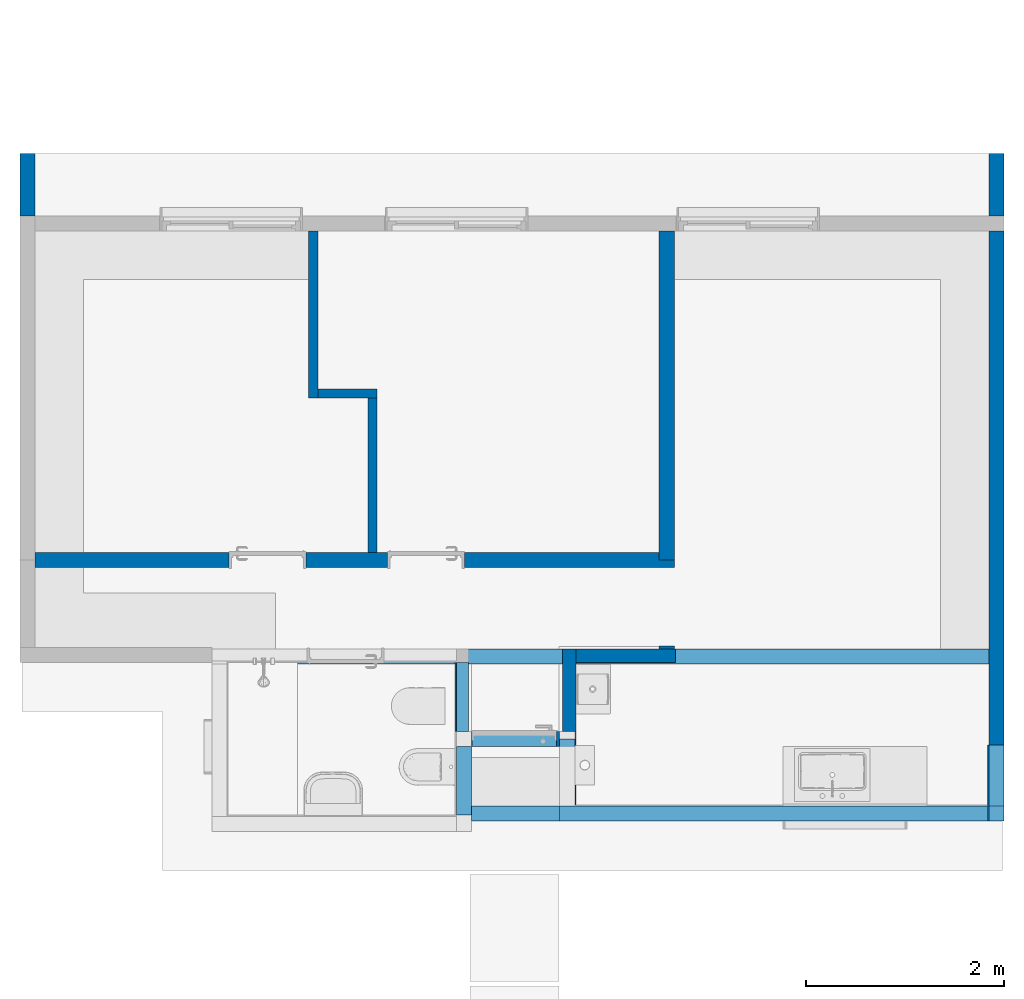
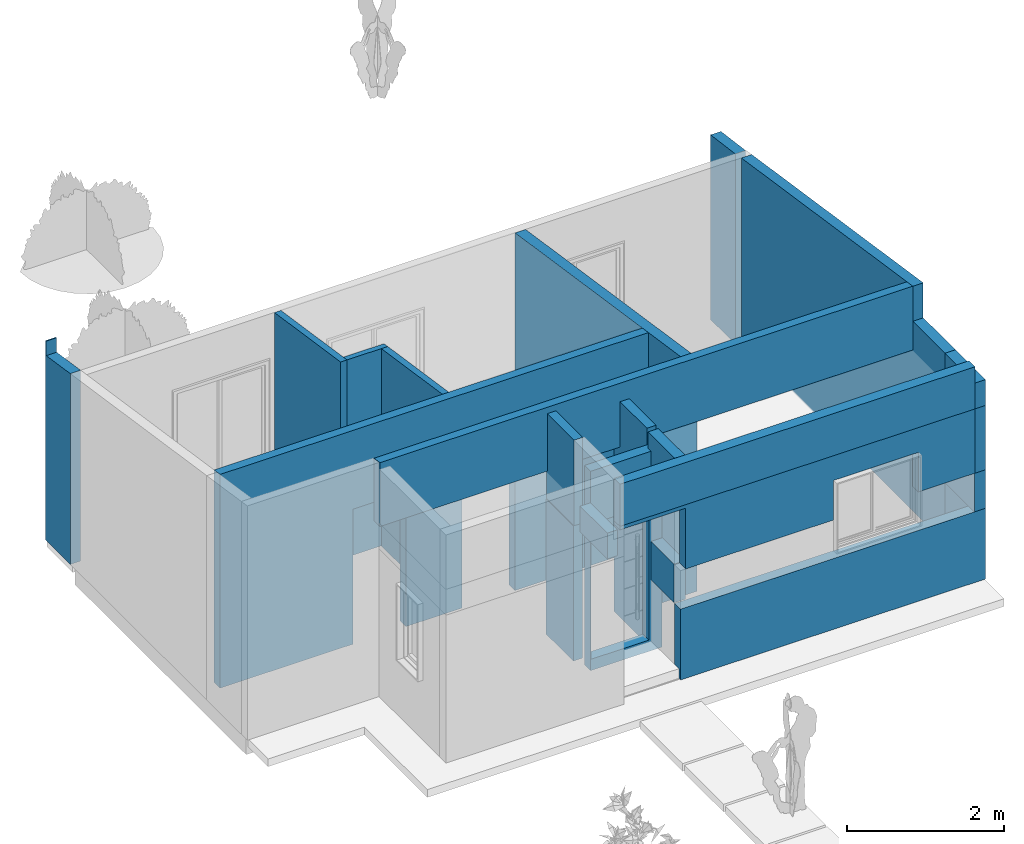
# One storey, part 2 of 8: 24 walls, 7 openings.
"""IFC2X3 building model written with IfcOpenShell, lengths in metres."""

from ifc_helpers import new_model, entity, si_unit, converted_unit, derived_unit, direction, frame, frame_2d, origin, place, context, subcontext, project, spatial, polyline, rectangle, extrude, clip, halfspace, bounded_halfspace, faceted_brep, material, layer, layer_set, layer_usage, type_object, element, save


model = new_model("IFC2X3")

# Units and contexts
model_context = context("Model", 3, precision=1e-05, world=origin(), true_north=direction((6.12303176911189e-17, 1.0)))
body_context = subcontext(model_context, "Body", "Model", "MODEL_VIEW")
ifc_project = project(units=[si_unit("LENGTHUNIT", "METRE"), si_unit("AREAUNIT", "SQUARE_METRE"), si_unit("VOLUMEUNIT", "CUBIC_METRE"), converted_unit("PLANEANGLEUNIT", "DEGREE", entity("IfcRatioMeasure", 0.0174532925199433), si_unit("PLANEANGLEUNIT", "RADIAN"), dimensions=[0, 0, 0, 0, 0, 0, 0]), si_unit("MASSUNIT", "GRAM", prefix="KILO"), derived_unit("MASSDENSITYUNIT", [(si_unit("MASSUNIT", "GRAM", prefix="KILO"), 1), (si_unit("LENGTHUNIT", "METRE"), -3)]), si_unit("TIMEUNIT", "SECOND"), si_unit("FREQUENCYUNIT", "HERTZ"), si_unit("THERMODYNAMICTEMPERATUREUNIT", "DEGREE_CELSIUS"), derived_unit("THERMALTRANSMITTANCEUNIT", [(si_unit("MASSUNIT", "GRAM", prefix="KILO"), 1), (si_unit("THERMODYNAMICTEMPERATUREUNIT", "KELVIN"), -1), (si_unit("TIMEUNIT", "SECOND"), -3)]), derived_unit("VOLUMETRICFLOWRATEUNIT", [(si_unit("LENGTHUNIT", "METRE"), 3), (si_unit("TIMEUNIT", "SECOND"), -1)]), si_unit("ELECTRICCURRENTUNIT", "AMPERE"), si_unit("ELECTRICVOLTAGEUNIT", "VOLT"), si_unit("POWERUNIT", "WATT"), si_unit("FORCEUNIT", "NEWTON", prefix="KILO"), si_unit("ILLUMINANCEUNIT", "LUX"), si_unit("LUMINOUSFLUXUNIT", "LUMEN"), si_unit("LUMINOUSINTENSITYUNIT", "CANDELA"), derived_unit("USERDEFINED", [(si_unit("MASSUNIT", "GRAM", prefix="KILO"), -1), (si_unit("LENGTHUNIT", "METRE"), -2), (si_unit("TIMEUNIT", "SECOND"), 3), (si_unit("LUMINOUSFLUXUNIT", "LUMEN"), 1)]), derived_unit("LINEARVELOCITYUNIT", [(si_unit("LENGTHUNIT", "METRE"), 1), (si_unit("TIMEUNIT", "SECOND"), -1)]), si_unit("PRESSUREUNIT", "PASCAL"), derived_unit("USERDEFINED", [(si_unit("LENGTHUNIT", "METRE"), -2), (si_unit("MASSUNIT", "GRAM", prefix="KILO"), 1), (si_unit("TIMEUNIT", "SECOND"), -2)])], contexts=[model_context])

# Site, building, storey
site_placement = place(None, origin())
site = spatial("IfcSite", under=ifc_project, at=site_placement, Name="Surface", CompositionType="ELEMENT")
building_placement = place(site_placement, origin())
building = spatial("IfcBuilding", under=site, at=building_placement, CompositionType="ELEMENT")
storey_placement = place(building_placement, origin())
storey = spatial("IfcBuildingStorey", under=building, at=storey_placement, Name="Nivel 0.0", CompositionType="ELEMENT", Elevation=0.0)

# Walls
ifc_material_1 = material(Name="Placa cementicia")
ifc_layer_1 = layer(ifc_material_1, 0.0125)
ifc_material_2 = material(Name="Bastidor metálico")
ifc_layer_2 = layer(ifc_material_2, 0.03)
ifc_material_3 = material(Name="OSB")
ifc_layer_3 = layer(ifc_material_3, 0.011)
ifc_material_4 = material(Name="Poliestireno expandido")
ifc_layer_4 = layer(ifc_material_4, 0.046)
ifc_layer_5 = layer(ifc_material_3, 0.011)
ifc_layer_6 = layer(ifc_material_2, 0.03)
ifc_layer_7 = layer(ifc_material_1, 0.012)
ifc_layer_set_1 = layer_set([ifc_layer_1, ifc_layer_2, ifc_layer_3, ifc_layer_4, ifc_layer_5, ifc_layer_6, ifc_layer_7], Name="Basic Wall:Pe-NW-001")
ifc_layer_usage_1 = layer_usage(ifc_layer_set_1, "AXIS2", "POSITIVE", -0.07625)
wall_type_1 = type_object("IfcWallType", Name="Basic Wall:Pe-NW-001", PredefinedType="STANDARD", material=ifc_layer_set_1)
wall_1_placement = place(storey_placement, frame((-8.91933547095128, 3.3208520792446, -0.175816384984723), z_axis=(0.0, 0.0, 1.0), x_axis=(0.0, -1.0, 0.0)))
element("IfcWallStandardCase", 1, at=wall_1_placement, inside=storey, type_object=wall_type_1, material=ifc_layer_usage_1, Name="Basic Wall:Pe-NW-001", ObjectType="Basic Wall:Pe-NW-001", context=body_context, shape_type="Clipping", body=[
    clip(extrude(rectangle(XDim=0.629137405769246, YDim=0.1525, at=frame_2d((0.314568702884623, 0.0), x_axis=(-1.0, 0.0))), origin(), (0.0, 0.0, 1.0), 3.1), bounded_halfspace(frame((0.0167500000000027, -0.0762500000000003, 2.87499999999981), z_axis=(-0.148340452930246, 0.0, 0.988936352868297), x_axis=(0.0, -1.0, 0.0)), False, frame((0.0167500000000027, -0.0762500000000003, 2.87499999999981)), polyline([(0.0, 0.0), (0.612387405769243, 0.0), (0.612387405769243, 0.1525), (0.0, 0.1525), (0.0, 0.0)]))),
])
ifc_layer_usage_2 = layer_usage(ifc_layer_set_1, "AXIS2", "POSITIVE", -0.07625)
wall_2_placement = place(storey_placement, frame((-7.05351368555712, -1.75579870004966, 2.47711071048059)))
element("IfcWallStandardCase", 2, at=wall_2_placement, inside=storey, type_object=wall_type_1, material=ifc_layer_usage_2, Name="Basic Wall:Pe-NW-001", ObjectType="Basic Wall:Pe-NW-001", context=body_context, shape_type="Clipping", body=[
    clip(extrude(rectangle(XDim=7.83792821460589, YDim=0.1525, at=frame_2d((3.91896410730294, -1.38777878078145e-17), x_axis=(-1.0, 0.0))), origin(), (0.0, 0.0, 1.0), 0.992495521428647), bounded_halfspace(frame((0.0, -0.07625, 0.992495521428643), z_axis=(0.0, 0.148340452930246, 0.988936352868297), x_axis=(-1.0, 0.0, 0.0)), False, frame((0.0, -0.07625, 0.992495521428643), z_axis=(0.0, 0.148340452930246, 0.988936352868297), x_axis=(-1.0, 0.0, 0.0)), polyline([(0.0, 0.0), (-7.83792821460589, 0.0), (-7.83792821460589, -0.15420608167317), (-4.66479519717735, -0.15420608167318), (-4.51029519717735, -0.15420608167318), (0.0, -0.154206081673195), (0.0, 0.0)]))),
])
ifc_layer_usage_3 = layer_usage(ifc_layer_set_1, "AXIS2", "POSITIVE", -0.07625)
wall_3_placement = place(storey_placement, frame((-4.43901368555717, -3.34203532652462, 2.525)))
element("IfcWallStandardCase", 3, at=wall_3_placement, inside=storey, type_object=wall_type_1, material=ifc_layer_usage_3, Name="Basic Wall:Pe-NW-001", ObjectType="Basic Wall:Pe-NW-001", context=body_context, shape_type="SweptSolid", body=[
    extrude(rectangle(XDim=5.22392821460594, YDim=0.1525, at=frame_2d((2.61196410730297, 1.2490009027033e-16), x_axis=(-1.0, 0.0))), origin(), (0.0, 0.0, 1.0), 0.655000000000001),
])
ifc_layer_usage_4 = layer_usage(ifc_layer_set_1, "AXIS2", "POSITIVE", -0.07625)
wall_4_placement = place(storey_placement, frame((0.861164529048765, -3.41828532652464, 2.525), z_axis=(0.0, 0.0, 1.0), x_axis=(0.0, 1.0, 0.0)))
element("IfcWallStandardCase", 4, at=wall_4_placement, inside=storey, type_object=wall_type_1, material=ifc_layer_usage_4, Name="Basic Wall:Pe-NW-001", ObjectType="Basic Wall:Pe-NW-001", context=body_context, shape_type="SweptSolid", body=[
    extrude(rectangle(XDim=0.766500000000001, YDim=0.1525, at=frame_2d((0.38325, 6.93889390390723e-18), x_axis=(-1.0, 0.0))), origin(), (0.0, 0.0, 1.0), 0.4),
])
ifc_layer_usage_5 = layer_usage(ifc_layer_set_1, "AXIS2", "POSITIVE", -0.07625)
wall_5_placement = place(storey_placement, frame((0.861164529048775, 2.69171467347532, -0.175000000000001), z_axis=(0.0, 0.0, 1.0), x_axis=(0.0, 1.0, 0.0)))
element("IfcWallStandardCase", 5, at=wall_5_placement, inside=storey, type_object=wall_type_1, material=ifc_layer_usage_5, Name="Basic Wall:Pe-NW-001", ObjectType="Basic Wall:Pe-NW-001", context=body_context, shape_type="Clipping", body=[
    clip(extrude(rectangle(XDim=0.629137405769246, YDim=0.1525, at=frame_2d((0.314568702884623, 2.77555756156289e-17), x_axis=(-1.0, 0.0))), origin(), (0.0, 0.0, 1.0), 2.9571012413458), halfspace(frame((0.0, -0.0762499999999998, 2.9571012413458), z_axis=(0.130665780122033, 0.0, 0.991426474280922), x_axis=(0.0, 1.0, 0.0)), False)),
])
ifc_layer_usage_6 = layer_usage(ifc_layer_set_1, "AXIS2", "POSITIVE", -0.07625)
wall_6_placement = place(storey_placement, frame((-3.47176368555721, -2.58940252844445, 2.65899999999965), z_axis=(0.0, 0.0, 1.0), x_axis=(0.0, -1.0, 0.0)))
element("IfcWallStandardCase", 6, at=wall_6_placement, inside=storey, type_object=wall_type_1, material=ifc_layer_usage_6, Name="Basic Wall:Pe-NW-001", ObjectType="Basic Wall:Pe-NW-001", context=body_context, shape_type="Clipping", body=[
    clip(extrude(rectangle(XDim=0.676382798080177, YDim=0.1525, at=frame_2d((0.338191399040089, -6.24500451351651e-17), x_axis=(1.0, 0.0))), origin(), (0.0, 0.0, 1.0), 0.521000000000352), bounded_halfspace(frame((0.676382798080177, -0.0762500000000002, 0.0), z_axis=(0.0, 0.0, 1.0), x_axis=(0.0, 1.0, 0.0)), True, frame((0.676382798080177, -0.0762500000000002, 0.0), z_axis=(0.0, 0.0, 1.0), x_axis=(0.0, 1.0, 0.0)), polyline([(0.0, 0.0), (0.1525, 0.0), (0.152500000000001, 0.599882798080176), (0.0, 0.599882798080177), (0.0, 0.0)]))),
])
ifc_layer_8 = layer(ifc_material_1, 0.0125)
ifc_layer_9 = layer(ifc_material_2, 0.03)
ifc_layer_10 = layer(ifc_material_3, 0.011)
ifc_layer_11 = layer(ifc_material_4, 0.046)
ifc_layer_12 = layer(ifc_material_3, 0.011)
ifc_layer_13 = layer(ifc_material_2, 0.03)
ifc_material_5 = material(Name="Placa roca de Yeso 12,5mm")
ifc_layer_14 = layer(ifc_material_5, 0.0125)
ifc_layer_set_2 = layer_set([ifc_layer_8, ifc_layer_9, ifc_layer_10, ifc_layer_11, ifc_layer_12, ifc_layer_13, ifc_layer_14], Name="Basic Wall:Pe-NW-002")
ifc_layer_usage_7 = layer_usage(ifc_layer_set_2, "AXIS2", "POSITIVE", -0.0765)
wall_type_2 = type_object("IfcWallType", Name="Basic Wall:Pe-NW-002", PredefinedType="STANDARD", material=ifc_layer_set_2)
wall_7_placement = place(storey_placement, frame((0.860914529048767, -2.65178532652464, -0.175), z_axis=(0.0, 0.0, 1.0), x_axis=(0.0, 1.0, 0.0)))
element("IfcWallStandardCase", 7, at=wall_7_placement, inside=storey, type_object=wall_type_2, material=ifc_layer_usage_7, Name="Basic Wall:Pe-NW-002", ObjectType="Basic Wall:Pe-NW-002", context=body_context, shape_type="Clipping", body=[
    clip(clip(clip(clip(extrude(rectangle(XDim=5.19049999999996, YDim=0.153, at=frame_2d((2.59524999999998, 0.0), x_axis=(-1.0, 0.0))), origin(), (0.0, 0.0, 1.0), 3.64460623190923), bounded_halfspace(frame((0.819736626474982, -0.0764999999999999, 3.64460623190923), z_axis=(0.148340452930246, 0.0, 0.988936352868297), x_axis=(0.0, 1.0, 0.0)), False, frame((0.819736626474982, -0.0764999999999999, 3.64460623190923)), polyline([(0.0, 0.0), (4.37076337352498, 0.0), (4.37076337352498, 0.153), (0.15249999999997, 0.153), (0.0, 0.153), (0.0, 0.0)]))), bounded_halfspace(frame((5.19049999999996, -0.0339999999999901, 0.15), z_axis=(0.0, 0.0, 1.0), x_axis=(-1.0, 0.0, 0.0)), True, frame((5.19049999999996, -0.0339999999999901, 0.15), z_axis=(0.0, 0.0, 1.0), x_axis=(-1.0, 0.0, 0.0)), polyline([(0.0, 0.0), (0.0, -0.11049999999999), (5.19049999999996, -0.110499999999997), (5.19049999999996, 0.0), (0.0, 0.0)]))), bounded_halfspace(frame((0.0, -0.0339999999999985, 0.15), z_axis=(0.0, -1.0, 0.0), x_axis=(0.0, 0.0, 1.0)), True, frame((0.0, -0.0339999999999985, 0.15), z_axis=(0.0, -1.0, 0.0), x_axis=(0.0, 0.0, 1.0)), polyline([(0.0, 0.0), (-0.15, 0.0), (-0.15, -5.19049999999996), (0.0, -5.19049999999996), (0.0, 0.0)]))), bounded_halfspace(frame((0.0, 0.0765000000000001, 3.1), z_axis=(0.0, 0.0, 1.0), x_axis=(0.0, 1.0, 0.0)), False, frame((0.0, 0.0765000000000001, 3.1)), polyline([(0.0, 0.0), (0.0, -0.000500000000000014), (0.0, -0.153), (0.819736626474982, -0.153), (0.819736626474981, 0.0), (0.0, 0.0)]))),
])

# Wall, openings
ifc_layer_usage_8 = layer_usage(ifc_layer_set_2, "AXIS2", "POSITIVE", -0.0765)
wall_8_placement = place(storey_placement, frame((-4.43901368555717, -3.34178532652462, 1.525)))
wall_8 = element("IfcWallStandardCase", 8, at=wall_8_placement, inside=storey, type_object=wall_type_2, material=ifc_layer_usage_8, Name="Basic Wall:Pe-NW-002", ObjectType="Basic Wall:Pe-NW-002", context=body_context, shape_type="SweptSolid", body=[
    extrude(rectangle(XDim=5.22342821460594, YDim=0.153, at=frame_2d((2.61171410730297, 1.31838984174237e-16), x_axis=(-1.0, 0.0))), origin(), (0.0, 0.0, 1.0), 1.0),
])
opening_1_placement = place(wall_8_placement, origin())
element("IfcOpeningElement", 9, at=opening_1_placement, cuts=wall_8, Name="Basic Wall:Pe-NW-002", ObjectType="Opening", context=body_context, shape_type="SweptSolid", body=[
    extrude(rectangle(XDim=1.1, YDim=1.25, at=frame_2d((5.55111512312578e-17, -5.55111512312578e-17), x_axis=(0.0, 1.0))), frame((3.76345223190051, -1.436, 0.0650000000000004), z_axis=(0.0, 1.0, 0.0), x_axis=(-1.0, 0.0, 0.0)), (0.0, 0.0, 1.0), 3.048),
])
opening_2_placement = place(wall_8_placement, frame((3.16503539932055, -0.0815000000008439, -0.475)))
element("IfcOpeningElement", 10, at=opening_2_placement, cuts=wall_8, Name="Basic Wall:Pe-NW-002", ObjectType="Opening", context=body_context, shape_type="Brep", body=[
    faceted_brep([(1.2, 0.0, 1.04999999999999), (0.0, 0.0, 1.04999999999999), (0.0, 0.0, 0.0), (1.2, 0.0, 0.0), (1.2, 0.135000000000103, 1.05), (0.0, 0.135000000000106, 1.05), (0.0, 0.135000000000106, 0.0), (0.0124999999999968, 0.135000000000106, 0.0), (0.0124999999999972, 0.174500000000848, 0.0), (1.1875, 0.174500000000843, 0.0), (1.1875, 0.135000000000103, 0.0), (1.2, 0.135000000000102, 0.0), (0.0124999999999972, 0.174500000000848, 1.03749999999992), (1.1875, 0.174500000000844, 1.03749999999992), (0.0124999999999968, 0.135000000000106, 1.03749999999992), (1.1875, 0.135000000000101, 1.03749999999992)], [[[0, 1, 2, 3]], [[0, 4, 5, 1]], [[5, 6, 2, 1]], [[6, 7, 8, 9, 10, 11, 3, 2]], [[11, 4, 0, 3]], [[12, 13, 9, 8]], [[8, 7, 14, 12]], [[13, 15, 10, 9]], [[12, 14, 15, 13]], [[4, 11, 10, 15, 14, 7, 6, 5]]]),
])
opening_3_placement = place(wall_8_placement, origin())
element("IfcOpeningElement", 11, at=opening_3_placement, cuts=wall_8, Name="Basic Wall:Pe-NW-002", ObjectType="Opening", context=body_context, shape_type="SweptSolid", body=[
    extrude(rectangle(XDim=0.944999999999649, YDim=1.04349999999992, at=frame_2d((-1.38777878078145e-16, 0.0), x_axis=(1.0, 0.0))), frame((0.445749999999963, 0.0764999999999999, 0.472499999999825), z_axis=(0.0, -1.0, 0.0), x_axis=(0.0, 0.0, -1.0)), (0.0, 0.0, 1.0), 0.153),
])

# Wall
ifc_layer_usage_9 = layer_usage(ifc_layer_set_2, "AXIS2", "POSITIVE", -0.0765)
wall_9_placement = place(storey_placement, frame((0.860914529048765, -3.41828532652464, 1.525), z_axis=(0.0, 0.0, 1.0), x_axis=(0.0, 1.0, 0.0)))
element("IfcWallStandardCase", 12, at=wall_9_placement, inside=storey, type_object=wall_type_2, material=ifc_layer_usage_9, Name="Basic Wall:Pe-NW-002", ObjectType="Basic Wall:Pe-NW-002", context=body_context, shape_type="SweptSolid", body=[
    extrude(rectangle(XDim=0.766500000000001, YDim=0.153, at=frame_2d((0.38325, 6.93889390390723e-18), x_axis=(-1.0, 0.0))), origin(), (0.0, 0.0, 1.0), 1.0),
])

# Wall, opening
ifc_layer_usage_10 = layer_usage(ifc_layer_set_2, "AXIS2", "NEGATIVE", 0.0765)
wall_10_placement = place(storey_placement, frame((-4.60301368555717, -2.58940252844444, -0.175)))
wall_10 = element("IfcWallStandardCase", 13, at=wall_10_placement, inside=storey, type_object=wall_type_2, material=ifc_layer_usage_10, Name="Basic Wall:Pe-NW-002", ObjectType="Basic Wall:Pe-NW-002", context=body_context, shape_type="SweptSolid", body=[
    extrude(rectangle(XDim=1.05549999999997, YDim=0.153, at=frame_2d((0.691749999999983, 0.0), x_axis=(-1.0, 0.0))), origin(), (0.0, 0.0, 1.0), 3.1),
])
opening_4_placement = place(wall_10_placement, frame((0.171879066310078, -0.0764999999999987, 0.175)))
element("IfcOpeningElement", 14, at=opening_4_placement, cuts=wall_10, Name="Puerta acceso:P1:1", ObjectType="Opening", context=body_context, shape_type="SweptSolid", body=[
    extrude(rectangle(XDim=2.09999999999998, YDim=0.85, at=frame_2d((1.04999999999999, 0.425), x_axis=(1.0, 0.0))), frame((0.0, 0.0, 0.0), z_axis=(0.0, 1.0, 0.0), x_axis=(0.0, 0.0, 1.0)), (0.0, 0.0, 1.0), 0.153),
])

# Walls
wall_11_placement = place(storey_placement, frame((-3.54801368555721, -3.34178532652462, -0.175)))
element("IfcWall", 15, at=wall_11_placement, inside=storey, type_object=wall_type_2, Name="Basic Wall:Pe-NW-002", ObjectType="Basic Wall:Pe-NW-002", context=body_context, shape_type="Brep", body=[
    faceted_brep([(4.48542821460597, -0.0764999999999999, 1.1), (4.32092821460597, -0.0764999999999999, 1.1), (0.0, -0.0764999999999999, 1.1), (0.0, -0.0764999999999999, 0.0), (4.48542821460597, -0.0764999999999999, 0.0), (0.0, 0.0764999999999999, 1.1), (0.153000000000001, 0.0764999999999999, 1.1), (4.33242821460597, 0.0764999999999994, 1.1), (4.48542821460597, 0.0764999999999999, 1.1), (4.48542821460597, 0.0764999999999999, 0.0), (4.44292821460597, 0.0764999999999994, 0.0), (4.44292821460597, 0.0764999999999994, 0.15), (4.33242821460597, 0.0764999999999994, 0.15), (0.0, 0.0764999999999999, 0.15), (0.0, -0.0339999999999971, 0.0), (4.44292821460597, -0.0339999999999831, 0.0), (4.44292821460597, -0.0339999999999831, 0.15), (0.0, -0.0339999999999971, 0.15)], [[[0, 1, 2, 3, 4]], [[5, 6, 7, 8, 9, 10, 11, 12, 13]], [[2, 1, 0, 8, 7, 6, 5]], [[4, 3, 14, 15, 10, 9]], [[0, 4, 9, 8]], [[11, 16, 17, 13, 12]], [[15, 16, 11, 10]], [[16, 15, 14, 17]], [[3, 2, 5, 13, 17, 14]]]),
])
ifc_layer_usage_11 = layer_usage(ifc_layer_set_2, "AXIS2", "POSITIVE", -0.0765)
wall_12_placement = place(storey_placement, frame((0.860914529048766, -3.26528532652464, -0.175), z_axis=(0.0, 0.0, 1.0), x_axis=(0.0, 1.0, 0.0)))
element("IfcWallStandardCase", 16, at=wall_12_placement, inside=storey, type_object=wall_type_2, material=ifc_layer_usage_11, Name="Basic Wall:Pe-NW-002", ObjectType="Basic Wall:Pe-NW-002", context=body_context, shape_type="Clipping", body=[
    clip(clip(extrude(rectangle(XDim=0.613500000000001, YDim=0.153, at=frame_2d((0.30675, 2.77555756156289e-17), x_axis=(-1.0, 0.0))), origin(), (0.0, 0.0, 1.0), 1.1), bounded_halfspace(frame((0.613500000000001, -0.0339999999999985, 0.15), z_axis=(0.0, 0.0, 1.0), x_axis=(-1.0, 0.0, 0.0)), True, frame((0.613500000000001, -0.0339999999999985, 0.15), z_axis=(0.0, 0.0, 1.0), x_axis=(-1.0, 0.0, 0.0)), polyline([(0.0, 0.0), (0.0, -0.110499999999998), (0.613500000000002, -0.110499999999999), (0.613500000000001, 0.0), (0.0, 0.0)]))), bounded_halfspace(frame((0.0, -0.0339999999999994, 0.15), z_axis=(0.0, -1.0, 0.0), x_axis=(0.0, 0.0, 1.0)), True, frame((0.0, -0.0339999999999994, 0.15), z_axis=(0.0, -1.0, 0.0), x_axis=(0.0, 0.0, 1.0)), polyline([(0.0, 0.0), (-0.15, 0.0), (-0.15, -0.613500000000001), (0.0, -0.613500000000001), (0.0, 0.0)]))),
])
ifc_layer_15 = layer(ifc_material_5, 0.0125)
ifc_layer_16 = layer(ifc_material_3, 0.012)
ifc_layer_17 = layer(ifc_material_4, 0.046)
ifc_layer_18 = layer(ifc_material_3, 0.012)
ifc_layer_19 = layer(ifc_material_5, 0.012)
ifc_layer_set_3 = layer_set([ifc_layer_15, ifc_layer_16, ifc_layer_17, ifc_layer_18, ifc_layer_19], Name="Basic Wall:Pi-NW-050")
ifc_layer_usage_12 = layer_usage(ifc_layer_set_3, "AXIS2", "NEGATIVE", 0.04725)
wall_type_3 = type_object("IfcWallType", Name="Basic Wall:Pi-NW-050", PredefinedType="STANDARD", material=ifc_layer_set_3)
wall_13_placement = place(storey_placement, frame((-6.03458559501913, 2.53871467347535, 0.0), z_axis=(0.0, 0.0, 1.0), x_axis=(0.0, -1.0, 0.0)))
element("IfcWallStandardCase", 17, at=wall_13_placement, inside=storey, type_object=wall_type_3, material=ifc_layer_usage_12, Name="Basic Wall:Pi-NW-050", ObjectType="Basic Wall:Pi-NW-050", context=body_context, shape_type="Clipping", body=[
    clip(extrude(rectangle(XDim=1.68725028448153, YDim=0.0945000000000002, at=frame_2d((0.843625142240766, 5.89805981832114e-17), x_axis=(-1.0, 0.0))), origin(), (0.0, 0.0, 1.0), 3.06707926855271), bounded_halfspace(frame((0.0, -0.0472500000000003, 2.81399172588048), z_axis=(-0.148340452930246, 0.0, 0.988936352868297), x_axis=(0.0, -1.0, 0.0)), False, frame((0.0, -0.0472500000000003, 2.81399172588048)), polyline([(0.0, 0.0), (1.68725028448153, 0.0), (1.68725028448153, 0.0945000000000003), (1.59275028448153, 0.0945000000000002), (0.0, 0.0945000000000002), (0.0, 0.0)]))),
])
ifc_layer_usage_13 = layer_usage(ifc_layer_set_3, "AXIS2", "NEGATIVE", 0.04725)
wall_14_placement = place(storey_placement, frame((-5.98733559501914, 0.898714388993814, 0.0)))
element("IfcWallStandardCase", 18, at=wall_14_placement, inside=storey, type_object=wall_type_3, material=ifc_layer_usage_13, Name="Basic Wall:Pi-NW-050", ObjectType="Basic Wall:Pi-NW-050", context=body_context, shape_type="Clipping", body=[
    clip(extrude(rectangle(XDim=0.597499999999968, YDim=0.0944999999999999, at=frame_2d((0.298749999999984, -3.46944695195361e-18), x_axis=(-1.0, 0.0))), origin(), (0.0, 0.0, 1.0), 3.06707926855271), bounded_halfspace(frame((0.0, -0.0472500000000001, 3.06707926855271), z_axis=(0.0, 0.148340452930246, 0.988936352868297), x_axis=(-1.0, 0.0, 0.0)), False, frame((0.0, -0.0472500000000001, 3.06707926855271)), polyline([(0.0, 0.0), (0.502999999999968, 0.0), (0.597499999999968, 0.0), (0.597499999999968, 0.0945), (0.0, 0.0945), (0.0, 0.0)]))),
])
ifc_layer_usage_14 = layer_usage(ifc_layer_set_3, "AXIS2", "POSITIVE", -0.04725)
wall_15_placement = place(storey_placement, frame((-5.43708559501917, 0.851464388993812, 0.0), z_axis=(0.0, 0.0, 1.0), x_axis=(0.0, -1.0, 0.0)))
element("IfcWallStandardCase", 19, at=wall_15_placement, inside=storey, type_object=wall_type_3, material=ifc_layer_usage_14, Name="Basic Wall:Pi-NW-050", ObjectType="Basic Wall:Pi-NW-050", context=body_context, shape_type="Clipping", body=[
    clip(extrude(rectangle(XDim=1.55643656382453, YDim=0.0945000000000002, at=frame_2d((0.778218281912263, 0.0), x_axis=(-1.0, 0.0))), origin(), (0.0, 0.0, 1.0), 3.30054475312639), bounded_halfspace(frame((0.0, -0.0472500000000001, 3.06707926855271), z_axis=(-0.148340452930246, 0.0, 0.988936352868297), x_axis=(0.0, -1.0, 0.0)), False, frame((0.0, -0.0472500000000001, 3.06707926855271)), polyline([(0.0, 0.0), (1.55643656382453, 0.0), (1.55643656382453, 0.0945000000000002), (0.0, 0.0945000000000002), (0.0, 0.0)]))),
])

# Wall, openings
ifc_layer_20 = layer(ifc_material_5, 0.0125)
ifc_layer_21 = layer(ifc_material_2, 0.03)
ifc_layer_22 = layer(ifc_material_3, 0.012)
ifc_layer_23 = layer(ifc_material_4, 0.046)
ifc_layer_24 = layer(ifc_material_3, 0.012)
ifc_layer_25 = layer(ifc_material_2, 0.03)
ifc_layer_26 = layer(ifc_material_5, 0.012)
ifc_layer_set_4 = layer_set([ifc_layer_20, ifc_layer_21, ifc_layer_22, ifc_layer_23, ifc_layer_24, ifc_layer_25, ifc_layer_26], Name="Basic Wall:Pi-NW-054")
ifc_layer_usage_15 = layer_usage(ifc_layer_set_4, "AXIS2", "NEGATIVE", 0.07725)
wall_type_4 = type_object("IfcWallType", Name="Basic Wall:Pi-NW-054", PredefinedType="STANDARD", material=ifc_layer_set_4)
wall_16_placement = place(storey_placement, frame((-8.84258547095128, -0.782222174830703, 0.0)))
wall_16 = element("IfcWallStandardCase", 20, at=wall_16_placement, inside=storey, type_object=wall_type_4, material=ifc_layer_usage_15, Name="Basic Wall:Pi-NW-054", ObjectType="Basic Wall:Pi-NW-054", context=body_context, shape_type="Clipping", body=[
    clip(extrude(rectangle(XDim=6.45386698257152, YDim=0.1545, at=frame_2d((3.22693349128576, -2.77555756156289e-17), x_axis=(-1.0, 0.0))), origin(), (0.0, 0.0, 1.0), 3.32371975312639), bounded_halfspace(frame((0.0, -0.0772499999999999, 3.32371975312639), z_axis=(0.0, 0.148340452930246, 0.988936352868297), x_axis=(-1.0, 0.0, 0.0)), False, frame((0.0, -0.0772499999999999, 3.32371975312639)), polyline([(0.0, 0.0), (6.45386698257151, 0.0), (6.45386698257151, 0.1545), (3.45274987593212, 0.1545), (3.35824987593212, 0.1545), (0.0, 0.1545), (0.0, 0.07725), (0.0, 0.0)]))),
])
opening_5_placement = place(wall_16_placement, frame((1.95549987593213, -0.0772500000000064, -0.000816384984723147)))
element("IfcOpeningElement", 21, at=opening_5_placement, cuts=wall_16, Name="Puerta Interior:P3:1", ObjectType="Opening", context=body_context, shape_type="SweptSolid", body=[
    extrude(rectangle(XDim=2.1, YDim=0.78, at=frame_2d((1.05, 0.39), x_axis=(1.0, 0.0))), frame((0.0, 0.0, 0.0), z_axis=(0.0, 1.0, 0.0), x_axis=(0.0, 0.0, 1.0)), (0.0, 0.0, 1.0), 0.1545),
])
opening_6_placement = place(wall_16_placement, frame((3.55549987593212, -0.0772500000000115, -0.000816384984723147)))
element("IfcOpeningElement", 22, at=opening_6_placement, cuts=wall_16, Name="Puerta Interior:P3:1", ObjectType="Opening", context=body_context, shape_type="SweptSolid", body=[
    extrude(rectangle(XDim=2.1, YDim=0.78, at=frame_2d((1.05, 0.39), x_axis=(1.0, 0.0))), frame((0.0, 0.0, 0.0), z_axis=(0.0, 1.0, 0.0), x_axis=(0.0, 0.0, 1.0)), (0.0, 0.0, 1.0), 0.1545),
])

# Wall, opening
ifc_layer_usage_16 = layer_usage(ifc_layer_set_4, "AXIS2", "NEGATIVE", 0.07725)
wall_17_placement = place(storey_placement, frame((-2.46596848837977, -1.67954870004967, 0.0), z_axis=(0.0, 0.0, 1.0), x_axis=(0.0, 1.0, 0.0)))
wall_17 = element("IfcWallStandardCase", 23, at=wall_17_placement, inside=storey, type_object=wall_type_4, material=ifc_layer_usage_16, Name="Basic Wall:Pi-NW-054", ObjectType="Basic Wall:Pi-NW-054", context=body_context, shape_type="Clipping", body=[
    clip(extrude(rectangle(XDim=4.21826337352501, YDim=0.1545, at=frame_2d((2.1091316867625, 2.15105711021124e-16), x_axis=(-1.0, 0.0))), origin(), (0.0, 0.0, 1.0), 3.44673123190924), bounded_halfspace(frame((0.0, -0.0772500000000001, 3.44673123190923), z_axis=(0.148340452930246, 0.0, 0.988936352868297), x_axis=(0.0, 1.0, 0.0)), False, frame((0.0, -0.0772500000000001, 3.44673123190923)), polyline([(0.0, 0.0), (4.21826337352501, 0.0), (4.21826337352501, 0.1545), (0.0, 0.1545), (0.0, 0.0)]))),
])
opening_7_placement = place(wall_17_placement, origin())
element("IfcOpeningElement", 24, at=opening_7_placement, cuts=wall_17, Name="Basic Wall:Pi-NW-054", ObjectType="Opening", context=body_context, shape_type="SweptSolid", body=[
    extrude(rectangle(XDim=2.1, YDim=0.869877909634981, at=frame_2d((0.0, 5.55111512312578e-17), x_axis=(1.0, 0.0))), frame((0.46238757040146, -0.0772499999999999, 1.05), z_axis=(0.0, 1.0, 0.0), x_axis=(0.0, 0.0, -1.0)), (0.0, 0.0, 1.0), 0.1545),
])

# Walls
ifc_layer_27 = layer(ifc_material_1, 0.0125)
ifc_layer_28 = layer(ifc_material_2, 0.03)
ifc_layer_29 = layer(ifc_material_3, 0.011)
ifc_layer_30 = layer(ifc_material_4, 0.046)
ifc_layer_31 = layer(ifc_material_3, 0.011)
ifc_layer_32 = layer(ifc_material_2, 0.03)
ifc_layer_33 = layer(ifc_material_5, 0.012)
ifc_material_6 = material(Name="Revestimiento Cerámico muro")
ifc_layer_34 = layer(ifc_material_6, 0.012)
ifc_layer_set_5 = layer_set([ifc_layer_27, ifc_layer_28, ifc_layer_29, ifc_layer_30, ifc_layer_31, ifc_layer_32, ifc_layer_33, ifc_layer_34], Name="Basic Wall:Pe-NW-003")
ifc_layer_usage_17 = layer_usage(ifc_layer_set_5, "AXIS2", "POSITIVE", -0.08225)
wall_type_5 = type_object("IfcWallType", Name="Basic Wall:Pe-NW-003", PredefinedType="STANDARD", material=ifc_layer_set_5)
wall_18_placement = place(storey_placement, frame((-3.46576368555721, -2.51290252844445, 0.925), z_axis=(0.0, 0.0, 1.0), x_axis=(0.0, -1.0, 0.0)))
element("IfcWallStandardCase", 25, at=wall_18_placement, inside=storey, type_object=wall_type_5, material=ifc_layer_usage_17, Name="Basic Wall:Pe-NW-003", ObjectType="Basic Wall:Pe-NW-003", context=body_context, shape_type="SweptSolid", body=[
    extrude(rectangle(XDim=0.740882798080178, YDim=0.164500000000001, at=frame_2d((0.370441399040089, -6.93889390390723e-18), x_axis=(-1.0, 0.0))), origin(), (0.0, 0.0, 1.0), 0.6),
])
ifc_layer_usage_18 = layer_usage(ifc_layer_set_5, "AXIS2", "POSITIVE", -0.08225)
wall_19_placement = place(storey_placement, frame((0.855164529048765, -3.41828532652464, 0.925), z_axis=(0.0, 0.0, 1.0), x_axis=(0.0, 1.0, 0.0)))
element("IfcWallStandardCase", 26, at=wall_19_placement, inside=storey, type_object=wall_type_5, material=ifc_layer_usage_18, Name="Basic Wall:Pe-NW-003", ObjectType="Basic Wall:Pe-NW-003", context=body_context, shape_type="SweptSolid", body=[
    extrude(rectangle(XDim=0.766500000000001, YDim=0.1645, at=frame_2d((0.38325, 1.38777878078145e-17), x_axis=(-1.0, 0.0))), origin(), (0.0, 0.0, 1.0), 0.6),
])
ifc_layer_35 = layer(ifc_material_5, 0.0125)
ifc_layer_36 = layer(ifc_material_3, 0.012)
ifc_layer_37 = layer(ifc_material_4, 0.046)
ifc_layer_38 = layer(ifc_material_3, 0.012)
ifc_layer_39 = layer(ifc_material_2, 0.03)
ifc_layer_40 = layer(ifc_material_5, 0.012)
ifc_layer_41 = layer(ifc_material_6, 0.012)
ifc_layer_set_6 = layer_set([ifc_layer_35, ifc_layer_36, ifc_layer_37, ifc_layer_38, ifc_layer_39, ifc_layer_40, ifc_layer_41], Name="Basic Wall:Pi-NW-053")
ifc_layer_usage_19 = layer_usage(ifc_layer_set_6, "AXIS2", "NEGATIVE", 0.06825)
wall_type_6 = type_object("IfcWallType", Name="Basic Wall:Pi-NW-053", PredefinedType="STANDARD", material=ifc_layer_set_6)
wall_20_placement = place(storey_placement, frame((-3.45176368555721, -2.58940252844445, -0.175), z_axis=(0.0, 0.0, 1.0), x_axis=(0.0, 1.0, 0.0)))
element("IfcWallStandardCase", 27, at=wall_20_placement, inside=storey, type_object=wall_type_6, material=ifc_layer_usage_19, Name="Basic Wall:Pi-NW-053", ObjectType="Basic Wall:Pi-NW-053", context=body_context, shape_type="SweptSolid", body=[
    extrude(rectangle(XDim=0.833353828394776, YDim=0.1365, at=frame_2d((0.493176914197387, 4.23272528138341e-16), x_axis=(-1.0, 0.0))), origin(), (0.0, 0.0, 1.0), 3.355),
])
ifc_layer_usage_20 = layer_usage(ifc_layer_set_6, "AXIS2", "NEGATIVE", 0.06825)
wall_21_placement = place(storey_placement, frame((-3.3835136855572, -1.74779870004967, -0.175)))
element("IfcWallStandardCase", 28, at=wall_21_placement, inside=storey, type_object=wall_type_6, material=ifc_layer_usage_20, Name="Basic Wall:Pi-NW-053", ObjectType="Basic Wall:Pi-NW-053", context=body_context, shape_type="SweptSolid", body=[
    extrude(rectangle(XDim=1.00254519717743, YDim=0.1365, at=frame_2d((0.501272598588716, -2.08166817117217e-17), x_axis=(-1.0, 0.0))), origin(), (0.0, 0.0, 1.0), 2.65211071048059),
])
ifc_layer_usage_21 = layer_usage(ifc_layer_set_6, "AXIS2", "POSITIVE", -0.06825)
wall_22_placement = place(storey_placement, frame((-4.53476368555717, -2.51290252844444, -0.0608163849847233), z_axis=(0.0, 0.0, 1.0), x_axis=(0.0, 1.0, 0.0)))
element("IfcWallStandardCase", 29, at=wall_22_placement, inside=storey, type_object=wall_type_6, material=ifc_layer_usage_21, Name="Basic Wall:Pi-NW-053", ObjectType="Basic Wall:Pi-NW-053", context=body_context, shape_type="SweptSolid", body=[
    extrude(rectangle(XDim=0.696853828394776, YDim=0.1365, at=frame_2d((0.348426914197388, 6.93889390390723e-17), x_axis=(-1.0, 0.0))), origin(), (0.0, 0.0, 1.0), 2.1),
])
ifc_layer_42 = layer(ifc_material_5, 0.0125)
ifc_layer_43 = layer(ifc_material_3, 0.012)
ifc_layer_44 = layer(ifc_material_4, 0.046)
ifc_layer_45 = layer(ifc_material_3, 0.012)
ifc_layer_46 = layer(ifc_material_2, 0.03)
ifc_layer_47 = layer(ifc_material_5, 0.012)
ifc_layer_set_7 = layer_set([ifc_layer_42, ifc_layer_43, ifc_layer_44, ifc_layer_45, ifc_layer_46, ifc_layer_47], Name="Basic Wall:Pi-NW-052")
ifc_layer_usage_22 = layer_usage(ifc_layer_set_7, "AXIS2", "POSITIVE", -0.06225)
wall_type_7 = type_object("IfcWallType", Name="Basic Wall:Pi-NW-052", PredefinedType="STANDARD", material=ifc_layer_set_7)
wall_23_placement = place(storey_placement, frame((-4.52876368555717, -2.58940252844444, 2.03918361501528), z_axis=(0.0, 0.0, 1.0), x_axis=(0.0, 1.0, 0.0)))
element("IfcWallStandardCase", 30, at=wall_23_placement, inside=storey, type_object=wall_type_7, material=ifc_layer_usage_22, Name="Basic Wall:Pi-NW-052", ObjectType="Basic Wall:Pi-NW-052", context=body_context, shape_type="SweptSolid", body=[
    extrude(rectangle(XDim=0.696853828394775, YDim=0.1245, at=frame_2d((0.424926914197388, 2.04697370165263e-16), x_axis=(-1.0, 0.0))), origin(), (0.0, 0.0, 1.0), 1.33163276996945),
])
ifc_material_7 = material(Name="Revestimiento exterior  tipo siding")
ifc_layer_48 = layer(ifc_material_7, 0.012)
ifc_layer_49 = layer(ifc_material_2, 0.03)
ifc_layer_50 = layer(ifc_material_3, 0.011)
ifc_layer_51 = layer(ifc_material_4, 0.046)
ifc_layer_52 = layer(ifc_material_3, 0.011)
ifc_layer_53 = layer(ifc_material_2, 0.03)
ifc_layer_54 = layer(ifc_material_5, 0.012)
ifc_layer_set_8 = layer_set([ifc_layer_48, ifc_layer_49, ifc_layer_50, ifc_layer_51, ifc_layer_52, ifc_layer_53, ifc_layer_54], Name="Basic Wall:Pe-NW-005")
ifc_layer_usage_23 = layer_usage(ifc_layer_set_8, "AXIS2", "POSITIVE", -0.076)
wall_type_8 = type_object("IfcWallType", Name="Basic Wall:Pe-NW-005", PredefinedType="STANDARD", material=ifc_layer_set_8)
wall_24_placement = place(storey_placement, frame((-4.51501368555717, -3.37078532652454, 2.03739073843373), z_axis=(0.0, 0.0, 1.0), x_axis=(0.0, 1.0, 0.0)))
element("IfcWallStandardCase", 31, at=wall_24_placement, inside=storey, type_object=wall_type_8, material=ifc_layer_usage_23, Name="Basic Wall:Pe-NW-005", ObjectType="Basic Wall:Pe-NW-005", context=body_context, shape_type="SweptSolid", body=[
    extrude(rectangle(XDim=0.692882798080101, YDim=0.152, at=frame_2d((0.358441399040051, 1.38777878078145e-17), x_axis=(-1.0, 0.0))), origin(), (0.0, 0.0, 1.0), 0.4),
])

save(model, "model.ifc")
